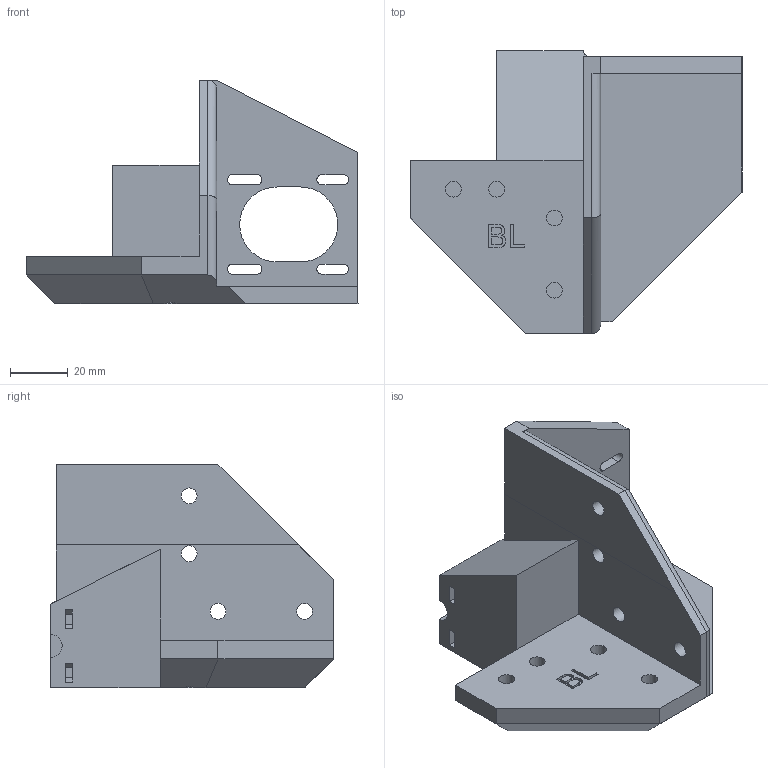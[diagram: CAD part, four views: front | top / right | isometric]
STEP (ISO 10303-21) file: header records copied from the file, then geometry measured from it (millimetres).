
FILE_DESCRIPTION(/* description */ (''),/* implementation_level */ '2;1');
FILE_NAME(/* name */ 'Stepper Mount BL x1 v3.step',/* time_stamp */ '2023-03-23T06:44:36-06:00',/* author */ (''),/* organization */ (''),/* preprocessor_version */ 'ST-DEVELOPER v19.2',/* originating_system */ 'Autodesk Translation Framework v11.17.0.187',/* authorisation */ '');
FILE_SCHEMA (('AUTOMOTIVE_DESIGN { 1 0 10303 214 3 1 1 }'));
Length unit declared in the file: millimetre
Products named in the file (2): Stepper Mount BL x1; BL Stepper Mount
Assembly tree (1 placements, depth 2):
  Stepper Mount BL x1
    BL Stepper Mount
Bounding box: 115.04 x 98 x 77.5 mm (x, y, z)
Volume: 151884.5 mm3; surface area: 40525.8 mm2
Topology: 1 solids, 1 shells, 133 faces, 346 edges, 229 vertices
Faces by surface type: plane 78, cylinder 31, bspline 24
Full cylindrical faces by diameter (mm): 3.5 x4, 5.5 x8, 11 x4
Entity records: 4388 total; most frequent: CARTESIAN_POINT 1119, ORIENTED_EDGE 692, DIRECTION 586, EDGE_CURVE 346, LINE 234, VECTOR 234, VERTEX_POINT 229, AXIS2_PLACEMENT_3D 176
